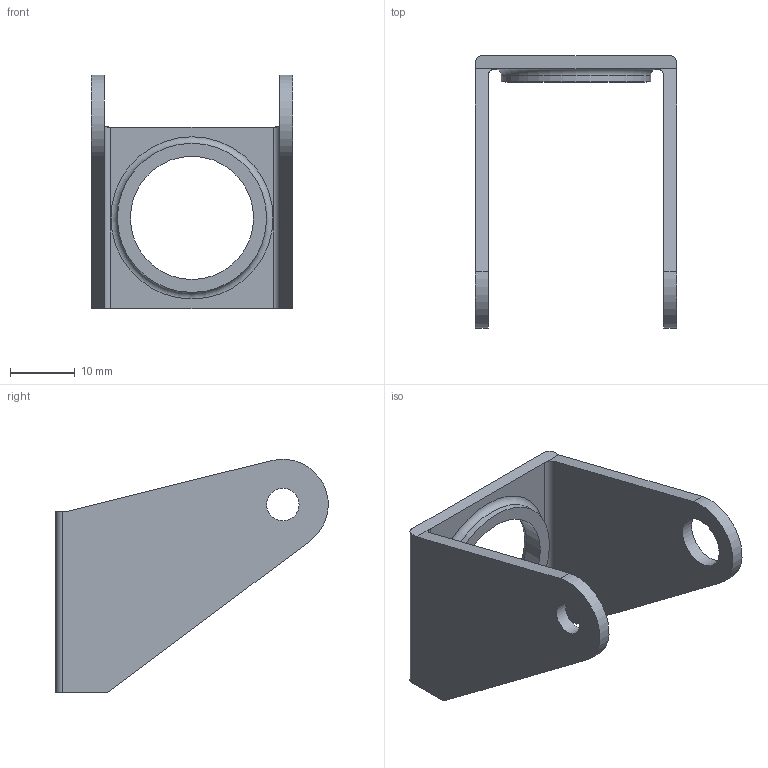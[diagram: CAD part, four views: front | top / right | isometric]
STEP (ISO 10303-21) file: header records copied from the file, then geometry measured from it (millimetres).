
FILE_DESCRIPTION(/* description */ (''),/* implementation_level */ '2;1');
FILE_NAME(/* name */ 'Body.stp',/* time_stamp */ '2026-04-29T14:59:33+07:00',/* author */ ('dadan'),/* organization */ (''),/* preprocessor_version */ 'ST-DEVELOPER v20.1',/* originating_system */ 'Autodesk Inventor 2026',/* authorisation */ '');
FILE_SCHEMA (('AUTOMOTIVE_DESIGN { 1 0 10303 214 3 1 1 }'));
Length unit declared in the file: millimetre
Products named in the file (1): Body
Bounding box: 31 x 41.98 x 35.98 mm (x, y, z)
Volume: 4758.2 mm3; surface area: 5362.6 mm2
Topology: 1 solids, 1 shells, 26 faces, 68 edges, 44 vertices
Faces by surface type: plane 14, cylinder 10, torus 2
Full cylindrical faces by diameter (mm): 5 x1, 8 x1, 19 x1, 23 x1
Entity records: 863 total; most frequent: DIRECTION 150, CARTESIAN_POINT 139, ORIENTED_EDGE 136, EDGE_CURVE 68, AXIS2_PLACEMENT_3D 55, VERTEX_POINT 44, LINE 40, VECTOR 40
